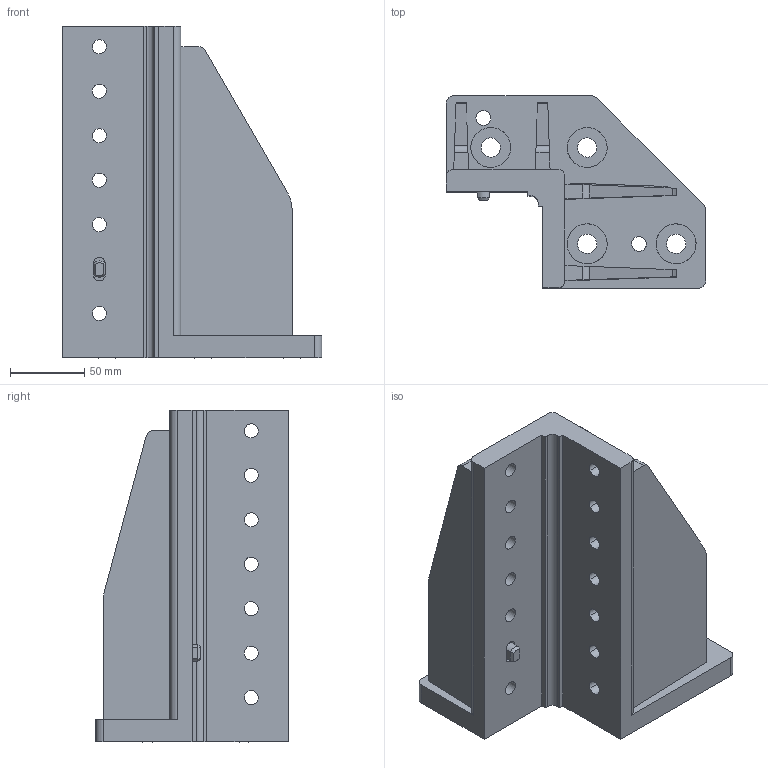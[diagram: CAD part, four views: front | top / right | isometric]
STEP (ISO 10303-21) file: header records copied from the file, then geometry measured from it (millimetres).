
FILE_DESCRIPTION(('CATIA V5 STEP Exchange'),'2;1');
FILE_NAME('C:\Users\User\Desktop\stp\EGT208.stp','2017-07-21T01:36:01+00:00',('none'),('none'),'CATIA Version 5 Release 21 GA (IN-10)','CATIA V5 STEP AP203','none');
FILE_SCHEMA(('CONFIG_CONTROL_DESIGN'));
Length unit declared in the file: millimetre
Products named in the file (1): EGT208
Bounding box: 175 x 130 x 224 mm (x, y, z)
Volume: 952952.1 mm3; surface area: 185928.3 mm2
Topology: 1 solids, 1 shells, 1312 faces, 3810 edges, 2540 vertices
Faces by surface type: plane 1114, extrusion 100, cylinder 96, cone 2
Entity records: 44549 total; most frequent: CARTESIAN_POINT 10582, ORIENTED_EDGE 7620, DIRECTION 5923, EDGE_CURVE 3810, VECTOR 3506, LINE 3406, VERTEX_POINT 2540, EDGE_LOOP 1390
